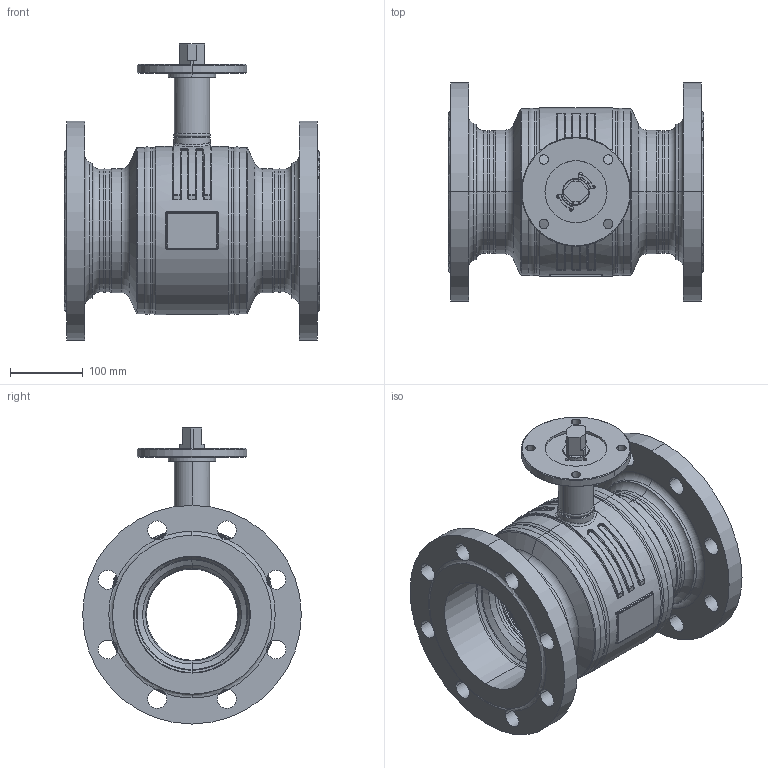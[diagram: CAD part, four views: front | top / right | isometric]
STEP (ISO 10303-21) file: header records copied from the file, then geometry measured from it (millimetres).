
FILE_DESCRIPTION((''),'2;1');
FILE_NAME('KHMO-F-R-H-150R125P04_SW0001','2025-04-23T10:13:34',('jeitlers'),('KLINGER'),'CREO PARAMETRIC BY PTC INC, 2023014','CREO PARAMETRIC BY PTC INC, 2023014','');
FILE_SCHEMA(('CONFIG_CONTROL_DESIGN'));
Length unit declared in the file: millimetre
Products named in the file (1): KHMO-F-R-H-150R125P04_SW0001
Bounding box: 350 x 300 x 406 mm (x, y, z)
Volume: 5984117.8 mm3; surface area: 1137697.7 mm2
Topology: 2 solids, 2 shells, 623 faces, 1529 edges, 908 vertices
Faces by surface type: cylinder 226, torus 140, plane 111, cone 86, bspline 52, sphere 8
Entity records: 31667 total; most frequent: CARTESIAN_POINT 16774, DIRECTION 3355, ORIENTED_EDGE 3042, EDGE_CURVE 1521, AXIS2_PLACEMENT_3D 1439, VERTEX_POINT 908, CIRCLE 868, EDGE_LOOP 689
